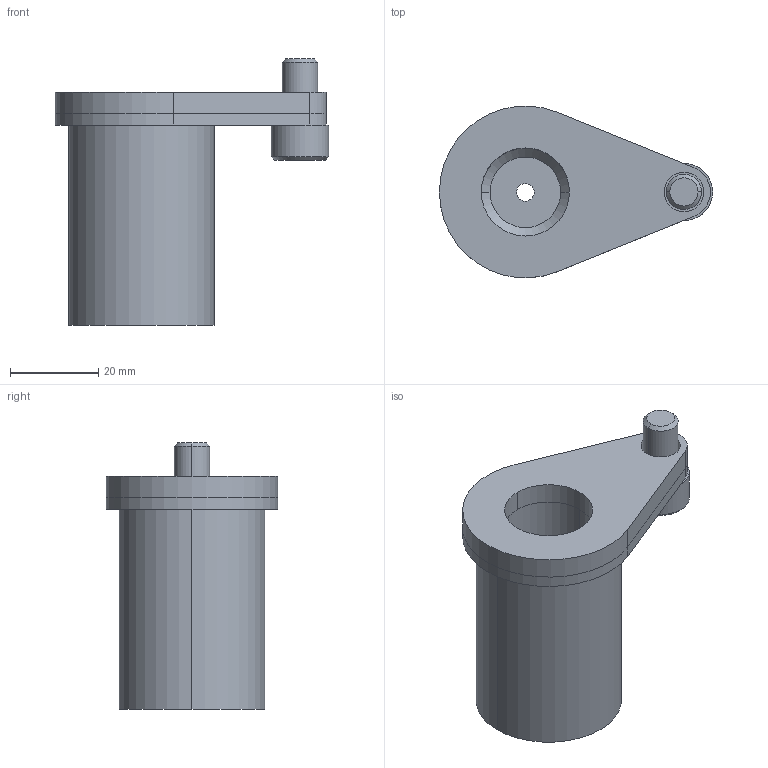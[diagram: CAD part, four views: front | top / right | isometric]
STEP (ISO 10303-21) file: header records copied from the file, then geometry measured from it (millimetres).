
FILE_DESCRIPTION(/* description */ (''),/* implementation_level */ '2;1');
FILE_NAME(/* name */ '3d_pqsp20-48_02946_r00.stp',/* time_stamp */ '2011-01-10T14:11:42+09:00',/* author */ ('MISUMI'),/* organization */ (''),/* preprocessor_version */ 'ST-DEVELOPER v11',/* originating_system */ 'UGS - NX 5.0',/* authorisation */ '');
FILE_SCHEMA (('CONFIG_CONTROL_DESIGN'));
Length unit declared in the file: millimetre
Products named in the file (1): 3d_pqsp20-48_02946_r00
Bounding box: 62 x 38.93 x 60.4 mm (x, y, z)
Volume: 37716.7 mm3; surface area: 16205.9 mm2
Topology: 4 solids, 4 shells, 51 faces, 120 edges, 80 vertices
Faces by surface type: plane 21, cylinder 20, cone 10
Entity records: 1594 total; most frequent: DIRECTION 284, CARTESIAN_POINT 252, ORIENTED_EDGE 240, EDGE_CURVE 120, AXIS2_PLACEMENT_3D 112, VERTEX_POINT 80, EDGE_LOOP 64, LINE 60
